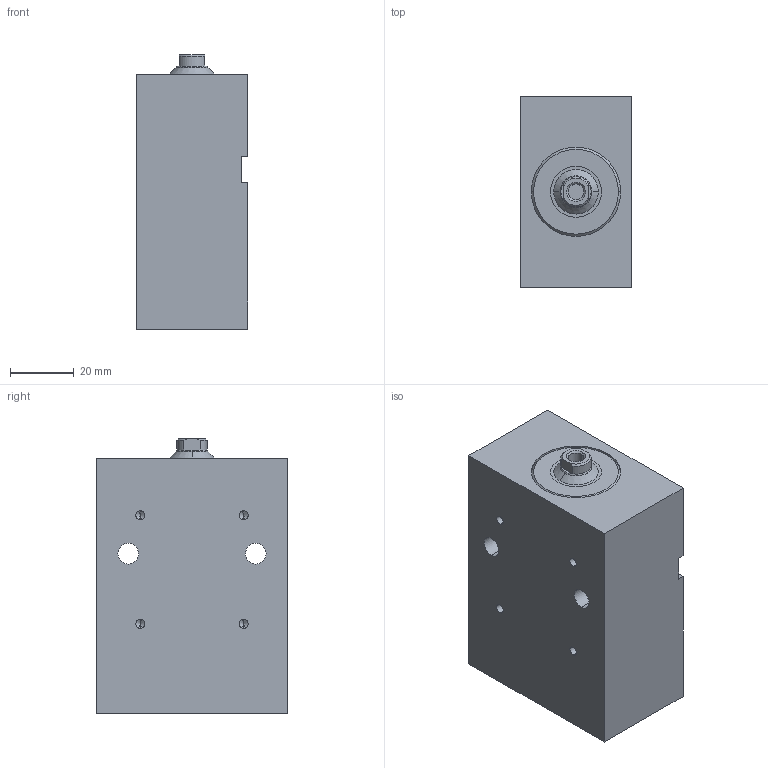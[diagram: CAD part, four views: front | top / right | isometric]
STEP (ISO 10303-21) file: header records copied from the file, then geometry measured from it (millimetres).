
FILE_DESCRIPTION (( 'STEP AP203' ), '1' );
FILE_NAME ('BZ_500.16_10.33.201.040.N30__DH_0_.STEP', '2022-05-10T11:59:04', ( '' ), ( '' ), 'SwSTEP 2.0', 'SolidWorks 2020', '' );
FILE_SCHEMA (( 'CONFIG_CONTROL_DESIGN' ));
Length unit declared in the file: millimetre
Products named in the file (7): _Verschraubung komplett mit Dichtung f. BZ_RZ_FZ.16_10.201, Art.-Nr._ 042485(201)^BZ_500.16_10.33.201.040.N30__DH_0_(2)_BZ_500.16_10.33.201.040.N30__DH_0_; BZ_500.16_10.33.201.040.N30__DH_0_(2)^BZ_500.16_10.33.201.040.N30__DH_0_; _O-Ring 8x1.5 - Art. 020459^BZ_500.16_10.33.201.040.N30__DH_0_(2)_BZ_500.16_10.33.201.040.N30__DH_0_; BZ_500.16_10.33.201.040.N30__DH_0_; _Dichtungssatz f. BZ_RZ_FZ.16_10.xx.201.40 Artikelnr._ 013286(0)^BZ_500.16_10.33.201.040.N30__DH_0_(2)_BZ_500.16_10.33.201.040.N30__DH_0_; _Kolbenstange komplett f. BZ_RZ_FZ.16_10.xx.201.40(0_11 1 6 1 0 0 6 12 0 0 0)0^BZ_500.16_10.33.201.040.N30__DH_0_(2)_BZ_500.16_10.33.201.040.N30__DH_0_; _Gehaeuse f. BZ500.16_10.33.201.40.N1.m (m = Nut spiegelbildlich30)00(130frei133000))6^BZ_500.16_10.33.201.040.N30__DH_0_(2)_BZ_500.16_10.33.201.040.N30__DH_0_
Assembly tree (7 placements, depth 3):
  BZ_500.16_10.33.201.040.N30__DH_0_
    BZ_500.16_10.33.201.040.N30__DH_0_(2)^BZ_500.16_10.33.201.040.N30__DH_0_
      _Gehaeuse f. BZ500.16_10.33.201.40.N1.m (m = Nut spiegelbildlich30)00(130frei133000))6^BZ_500.16_10.33.201.040.N30__DH_0_(2)_BZ_500.16_10.33.201.040.N30__DH_0_
      _Verschraubung komplett mit Dichtung f. BZ_RZ_FZ.16_10.201, Art.-Nr._ 042485(201)^BZ_500.16_10.33.201.040.N30__DH_0_(2)_BZ_500.16_10.33.201.040.N30__DH_0_
      _Dichtungssatz f. BZ_RZ_FZ.16_10.xx.201.40 Artikelnr._ 013286(0)^BZ_500.16_10.33.201.040.N30__DH_0_(2)_BZ_500.16_10.33.201.040.N30__DH_0_
      _Kolbenstange komplett f. BZ_RZ_FZ.16_10.xx.201.40(0_11 1 6 1 0 0 6 12 0 0 0)0^BZ_500.16_10.33.201.040.N30__DH_0_(2)_BZ_500.16_10.33.201.040.N30__DH_0_
      _O-Ring 8x1.5 - Art. 020459^BZ_500.16_10.33.201.040.N30__DH_0_(2)_BZ_500.16_10.33.201.040.N30__DH_0_  x2
Bounding box: 35 x 60 x 86 mm (x, y, z)
Volume: 159021.9 mm3; surface area: 33613.2 mm2
Topology: 6 solids, 6 shells, 120 faces, 267 edges, 164 vertices
Faces by surface type: cylinder 52, plane 38, cone 18, torus 12
Entity records: 4004 total; most frequent: CARTESIAN_POINT 660, DIRECTION 605, ORIENTED_EDGE 486, AXIS2_PLACEMENT_3D 251, EDGE_CURVE 243, VERTEX_POINT 154, EDGE_LOOP 139, CIRCLE 128
